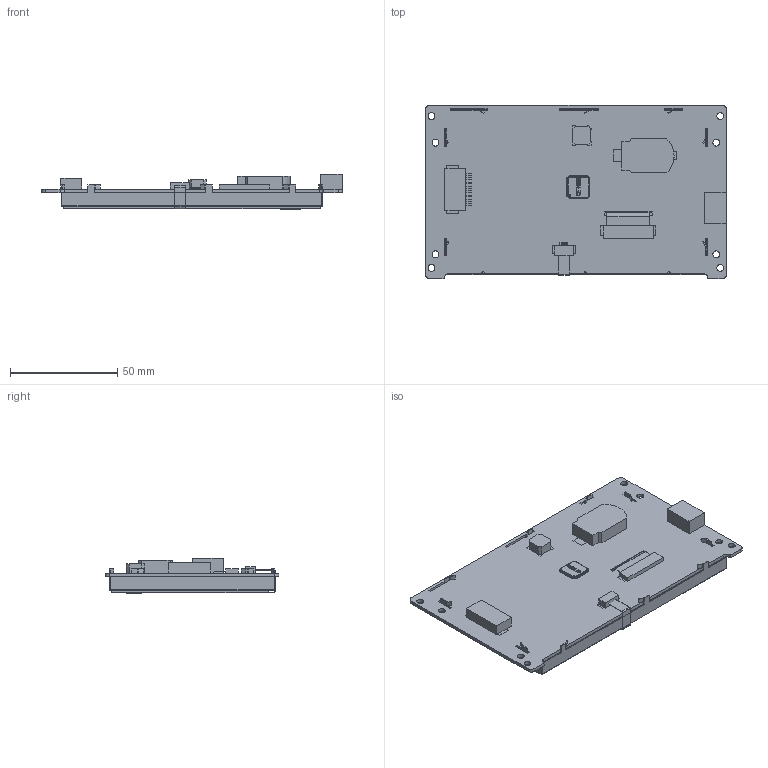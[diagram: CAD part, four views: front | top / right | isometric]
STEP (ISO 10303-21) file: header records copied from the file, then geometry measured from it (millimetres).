
FILE_DESCRIPTION(/* description */ (''),/* implementation_level */ '2;1');
FILE_NAME(/* name */ '',/* time_stamp */ '2023-08-28T14:16:41+08:00',/* author */ (''),/* organization */ (''),/* preprocessor_version */ 'ST-DEVELOPER v11',/* originating_system */ 'SIEMENS PLM Software NX 7.5',/* authorisation */ '');
FILE_SCHEMA (('AP203_CONFIGURATION_CONTROLLED_3D_DESIGN_OF_MECHANICAL_PARTS_AND_ASSEMBLIES_MIM_LF'));
Length unit declared in the file: millimetre
Products named in the file (1): 3D-SDWb050YY94AT_stp
Bounding box: 140 x 80.9 x 16.6 mm (x, y, z)
Volume: 32861.1 mm3; surface area: 56288.5 mm2
Topology: 17 solids, 17 shells, 1453 faces, 4177 edges, 2771 vertices
Faces by surface type: plane 1253, cylinder 193, bspline 7
Full cylindrical faces by diameter (mm): 3.2 x8
Entity records: 49214 total; most frequent: CARTESIAN_POINT 8793, ORIENTED_EDGE 8338, DIRECTION 7373, EDGE_CURVE 4169, LINE 3755, VECTOR 3755, VERTEX_POINT 2771, AXIS2_PLACEMENT_3D 1809
